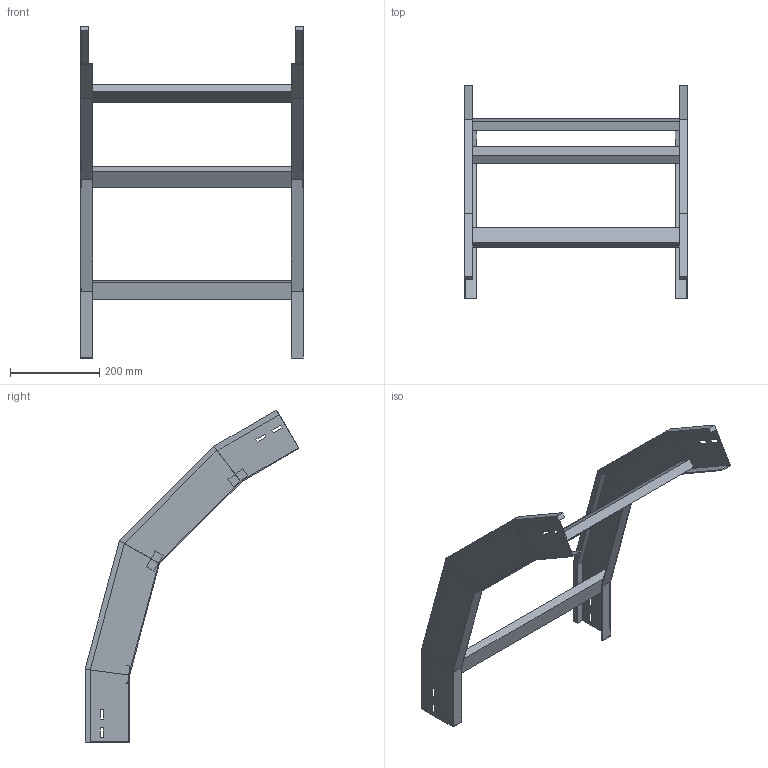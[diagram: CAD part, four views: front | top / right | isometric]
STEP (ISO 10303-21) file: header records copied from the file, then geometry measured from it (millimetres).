
FILE_DESCRIPTION (( 'STEP AP214' ), '1' );
FILE_NAME ('41B5D500.step', '2025-02-21T14:56:08', ( '' ), ( '' ), 'SwSTEP 2.0', 'SolidWorks 2023', '' );
FILE_SCHEMA (( 'AUTOMOTIVE_DESIGN' ));
Length unit declared in the file: millimetre
Products named in the file (3): LONGH.DISCESA_60°_H100_R500; TRAVERSINO_500; 41B5D500
Assembly tree (5 placements, depth 2):
  41B5D500
    LONGH.DISCESA_60°_H100_R500  x2
    TRAVERSINO_500  x3
Bounding box: 500 x 480.08 x 744.92 mm (x, y, z)
Volume: 1985636.7 mm3; surface area: 681209.5 mm2
Topology: 5 solids, 5 shells, 118 faces, 276 edges, 168 vertices
Faces by surface type: plane 118
Entity records: 1672 total; most frequent: CARTESIAN_POINT 276, ORIENTED_EDGE 264, DIRECTION 260, EDGE_CURVE 132, VECTOR 132, LINE 132, VERTEX_POINT 80, EDGE_LOOP 64
